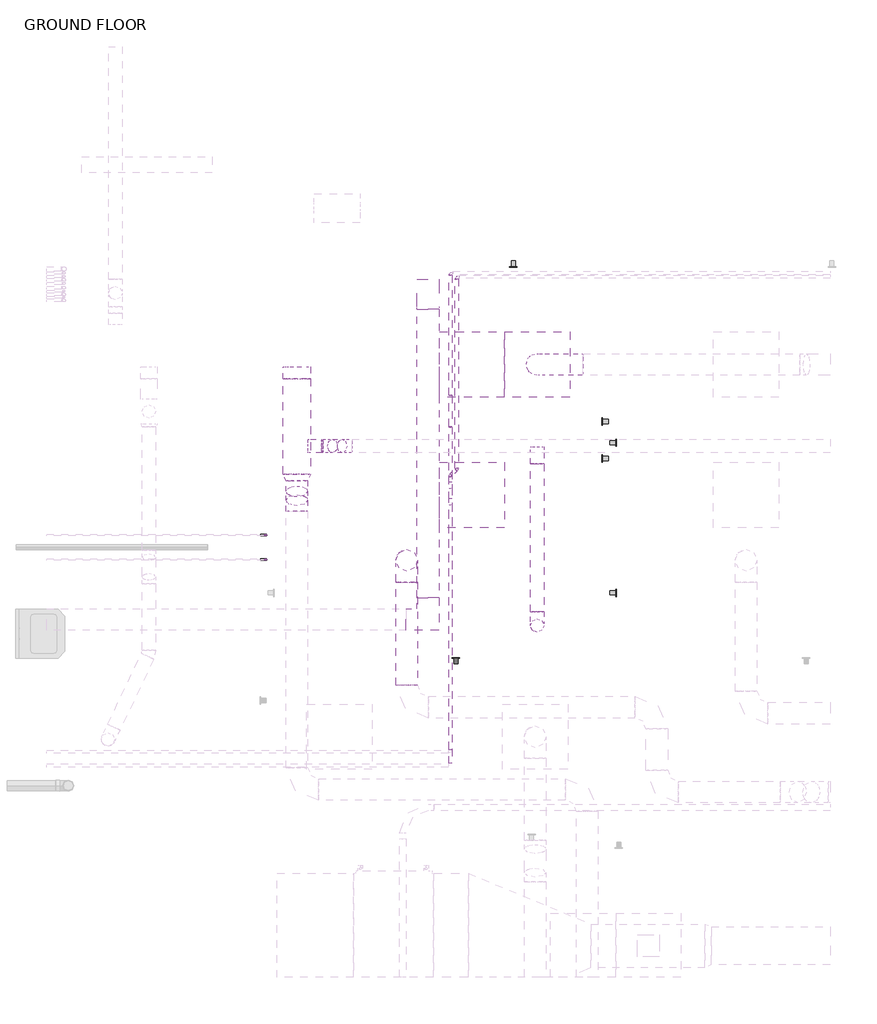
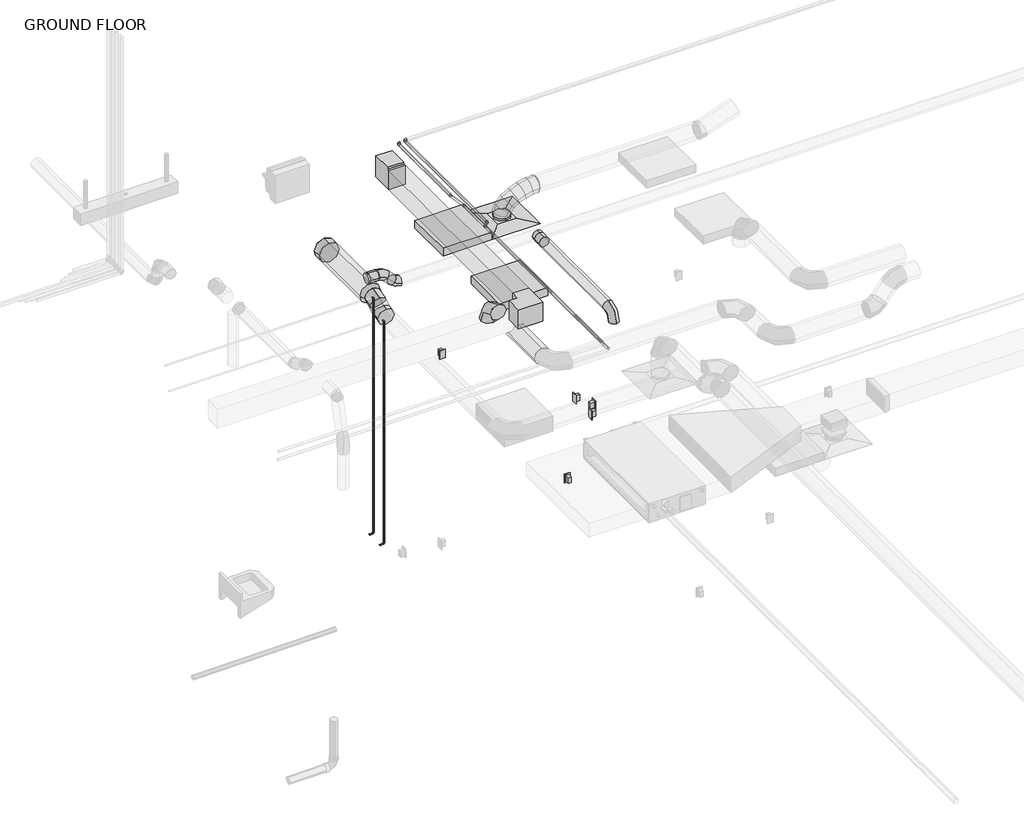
# One storey, part 16 of 22: 12 duct fittings, 12 pipe segments, 10 duct segments, 10 pipe fittings, 3 proxies, 2 electric appliances, 2 light fixtures, 1 air terminal, 1 switching device.
"""IFC4 building model written with IfcOpenShell, lengths in millimetres."""

from ifc_helpers import new_model, si_unit, point, frame, frame_2d, origin, place, context, project, spatial, polyline, circle_curve, ellipse_curve, trimmed, segment, composite_curve, outline, extrude, transform, mapped, element, save
from ifc_brep_helpers import plane_surface, cylinder_surface, advanced_brep
from components import air_terminal_e9020785, duplex_receptacle_countertop_10251bba, rectangular_elbow_mitered_transition_standard_eb9bf791, rectangular_elbow_mitered_standard_f09b78ec, round_elbow_1_d_a253342a, round_elbow_1_d_c80420c1, round_elbow_1_d_20610a6e, round_elbow_1_d_42c0595d, round_takeoff_standard_17dc06e3, round_takeoff_standard_86724b47, round_takeoff_standard_17f2ae85, round_transition_angle_45_degree_605ec02d, telephone_outlet_data_plain_18c24199, troffer_corner_insert_2x2_3lamp_e67c7f8f, elbow_generic_standard_be2ddd46, elbow_generic_standard_1964ee4a, elbow_generic_standard_c06ac706, elbow_generic_standard_a088f956

model = new_model("IFC4")

# Units and contexts
model_context = context("Model", 3, world=origin())
ifc_project = project(units=[si_unit("LENGTHUNIT", "METRE", prefix="MILLI")], contexts=[model_context])

# Site, building, storey
site = spatial("IfcSite", under=ifc_project)
building = spatial("IfcBuilding", under=site)
storey = spatial("IfcBuildingStorey", under=building, Name="GROUND FLOOR", Elevation=30480.0)

# Air terminal
placement = place(None, origin())
air_terminal_shape = air_terminal_e9020785(model_context)
element("IfcAirTerminal", 1, ObjectType="Supply Diffuser - Rectangular Face Round Neck - Hosted : 24\"x24\" Face 8\" Neck - Hosted", at=placement, inside=storey, context=model_context, shape_type="MappedRepresentation", body=[
    mapped(air_terminal_shape, transform((-5009.1954607, 6811.3695005, 33223.2), x_axis=(0.0, -1.0, 0.0), y_axis=(-1.0, 0.0, 0.0), z_axis=(0.0, 0.0, -1.0))),
])

# Proxies
duplex_receptacle_countertop_shape = duplex_receptacle_countertop_10251bba(model_context)
element("IfcBuildingElementProxy", 2, Name="Duplex Receptacle : Countertop", ObjectType="Duplex Receptacle : Countertop", at=placement, inside=storey, context=model_context, shape_type="MappedRepresentation", body=[
    mapped(duplex_receptacle_countertop_shape, transform((-4275.7704607, 4677.7695005, 30937.2), x_axis=(0.0, 1.0, 0.0), y_axis=(0.0, 0.0, 1.0), z_axis=(1.0, 0.0, 0.0))),
])
element("IfcBuildingElementProxy", 3, Name="Duplex Receptacle : Standard", ObjectType="Duplex Receptacle : Standard", at=placement, inside=storey, context=model_context, shape_type="MappedRepresentation", body=[
    mapped(duplex_receptacle_countertop_shape, transform((-5231.5700418, 7725.7695005, 30937.2), x_axis=(-1.0, 0.0, 0.0), y_axis=(0.0, 0.0, -1.0), z_axis=(0.0, -1.0, 0.0))),
])
element("IfcBuildingElementProxy", 4, Name="Duplex Receptacle : Standard", ObjectType="Duplex Receptacle : Standard", at=placement, inside=storey, context=model_context, shape_type="MappedRepresentation", body=[
    mapped(duplex_receptacle_countertop_shape, transform((-4399.5954607, 6279.0494659, 30937.2), x_axis=(0.0, -1.0, 0.0), y_axis=(0.0, 0.0, 1.0), z_axis=(-1.0, 0.0, 0.0))),
])

# Duct fittings
rectangular_elbow_mitered_transition_standard_shape = rectangular_elbow_mitered_transition_standard_eb9bf791(model_context)
element("IfcDuctFitting", 5, ObjectType="Rectangular Elbow - Mitered - Transition : Standard", at=placement, inside=storey, context=model_context, shape_type="MappedRepresentation", body=[
    mapped(rectangular_elbow_mitered_transition_standard_shape, transform((-6029.8204015, 4430.1195005, 33807.4), x_axis=(1.0, 0.0, 0.0), y_axis=(0.0, 1.0, 0.0), z_axis=(0.0, 0.0, 1.0))),
])
rectangular_elbow_mitered_standard_shape = rectangular_elbow_mitered_standard_f09b78ec(model_context)
element("IfcDuctFitting", 6, ObjectType="Rectangular Elbow - Mitered : Standard", at=placement, inside=storey, context=model_context, shape_type="MappedRepresentation", body=[
    mapped(rectangular_elbow_mitered_standard_shape, transform((-6029.8204015, 7478.1195005, 33807.4), x_axis=(0.0, 1.0, 0.0), y_axis=(0.0, 0.0, 1.0), z_axis=(1.0, 0.0, 0.0))),
])
round_elbow_1_d_shape = round_elbow_1_d_a253342a(model_context)
element("IfcDuctFitting", 7, ObjectType="Round Elbow : 1 D", at=placement, inside=storey, context=model_context, shape_type="MappedRepresentation", body=[
    mapped(round_elbow_1_d_shape, transform((-6228.3954607, 4982.5695005, 33629.6), x_axis=(0.0, 0.0, 1.0), y_axis=(0.0, -1.0, 0.0), z_axis=(1.0, 0.0, 0.0))),
])
round_elbow_1_d_2_shape = round_elbow_1_d_c80420c1(model_context)
element("IfcDuctFitting", 8, ObjectType="Round Elbow : 1 D", at=placement, inside=storey, context=model_context, shape_type="MappedRepresentation", body=[
    mapped(round_elbow_1_d_2_shape, transform((-5009.1954607, 4372.9695005, 33464.5), x_axis=(0.0, -1.0, 0.0), y_axis=(0.0, 0.0, -1.0), z_axis=(1.0, 0.0, 0.0))),
])
round_elbow_1_d_3_shape = round_elbow_1_d_20610a6e(model_context)
element("IfcDuctFitting", 9, ObjectType="Round Elbow : 1 D", at=placement, inside=storey, context=model_context, shape_type="MappedRepresentation", body=[
    mapped(round_elbow_1_d_3_shape, transform((-7253.9204607, 5672.1243299, 33629.6), x_axis=(0.0, -1.0, 0.0), y_axis=(0.0, 0.0, -1.0), z_axis=(1.0, 0.0, 0.0))),
])
element("IfcDuctFitting", 10, ObjectType="Round Elbow : 1 D", at=placement, inside=storey, context=model_context, shape_type="MappedRepresentation", body=[
    mapped(round_elbow_1_d_3_shape, transform((-7253.9204607, 5496.1479679, 33528.0), x_axis=(0.0, -0.8660254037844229, -0.5000000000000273), y_axis=(0.0, -0.5000000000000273, 0.8660254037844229), z_axis=(-1.0, 0.0, 0.0))),
])
round_elbow_1_d_4_shape = round_elbow_1_d_42c0595d(model_context)
element("IfcDuctFitting", 11, ObjectType="Round Elbow : 1 D", at=placement, inside=storey, context=model_context, shape_type="MappedRepresentation", body=[
    mapped(round_elbow_1_d_4_shape, transform((-6958.932468, 6049.3695005, 33629.6), x_axis=(1.0, 0.0, 0.0), y_axis=(0.0, 0.0, -1.0), z_axis=(0.0, 1.0, 0.0))),
])
element("IfcDuctFitting", 12, ObjectType="Round Elbow : 1 D", at=placement, inside=storey, context=model_context, shape_type="MappedRepresentation", body=[
    mapped(round_elbow_1_d_4_shape, transform((-6793.8326712, 6049.3695005, 33464.5), x_axis=(0.707106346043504, 0.0, -0.7071072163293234), y_axis=(0.7071072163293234, 0.0, 0.707106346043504), z_axis=(0.0, -1.0, 0.0))),
])
round_takeoff_standard_shape = round_takeoff_standard_17dc06e3(model_context)
element("IfcDuctFitting", 13, ObjectType="Round Takeoff : Standard", at=placement, inside=storey, context=model_context, shape_type="MappedRepresentation", body=[
    mapped(round_takeoff_standard_shape, transform((-5009.1954607, 5985.8695005, 33464.5), x_axis=(0.0, -1.0, 0.0), y_axis=(-1.0, 0.0, 0.0), z_axis=(0.0, 0.0, -1.0))),
])
round_takeoff_standard_2_shape = round_takeoff_standard_86724b47(model_context)
element("IfcDuctFitting", 14, ObjectType="Round Takeoff : Standard", at=placement, inside=storey, context=model_context, shape_type="MappedRepresentation", body=[
    mapped(round_takeoff_standard_2_shape, transform((-7253.9204607, 6781.4293332, 33629.6), x_axis=(0.0, -1.0, 0.0), y_axis=(-1.0, 0.0, 0.0), z_axis=(0.0, 0.0, -1.0))),
])
round_takeoff_standard_3_shape = round_takeoff_standard_17f2ae85(model_context)
element("IfcDuctFitting", 15, ObjectType="Round Takeoff : Standard", at=placement, inside=storey, context=model_context, shape_type="MappedRepresentation", body=[
    mapped(round_takeoff_standard_3_shape, transform((-7126.9204607, 6049.3695005, 33629.6), x_axis=(1.0, 0.0, 0.0), y_axis=(0.0, 1.0, 0.0), z_axis=(0.0, 0.0, 1.0))),
])
round_transition_angle_45_degree_shape = round_transition_angle_45_degree_605ec02d(model_context)
element("IfcDuctFitting", 16, ObjectType="Round Transition - Angle : 45 Degree", at=placement, inside=storey, context=model_context, shape_type="MappedRepresentation", body=[
    mapped(round_transition_angle_45_degree_shape, transform((-7253.9204607, 5726.5716058, 33629.6), x_axis=(0.0, 1.0, 0.0), y_axis=(-1.0, 0.0, 0.0), z_axis=(0.0, 0.0, 1.0))),
])

# Duct segments
element("IfcDuctSegment", 17, ObjectType="Flex - Round", at=placement, inside=storey, context=model_context, shape_type="AdvancedBrep", body=[
    advanced_brep(
    [(-4580.7431384, 6709.7695005, 33528.0), (-4580.7431384, 6811.3695005, 33426.4), (-4580.7431384, 6912.9695005, 33528.0), (-4580.7431384, 6811.3695005, 33629.6), (-4588.790283, 6709.7695005, 33528.0), (-4584.3622178, 6811.3695005, 33426.4), (-4588.790283, 6912.9695005, 33528.0), (-4593.2183481, 6811.3695005, 33629.6), (-5009.1954607, 6709.7695005, 33277.175), (-5110.7954607, 6811.3695005, 33277.175), (-5009.1954607, 6912.9695005, 33277.175), (-4907.5954607, 6811.3695005, 33277.175), (-4669.9423992, 6709.7695005, 33520.9127807), (-4654.4566913, 6811.3695005, 33420.2784726), (-4669.9423992, 6912.9695005, 33520.9127807), (-4685.4281072, 6811.3695005, 33621.5470889), (-4765.3747964, 6709.7695005, 33499.7470094), (-4736.047964, 6811.3695005, 33402.1824982), (-4765.3747964, 6912.9695005, 33499.7470094), (-4794.7016287, 6811.3695005, 33597.3115207), (-4857.0283155, 6709.7695005, 33464.6465159), (-4811.4139874, 6811.3695005, 33373.3196172), (-4857.0283155, 6912.9695005, 33464.6465159), (-4902.6426435, 6811.3695005, 33555.9734146), (-4934.8909421, 6709.7695005, 33415.75513), (-4867.9774847, 6811.3695005, 33337.8023492), (-4934.8909421, 6912.9695005, 33415.75513), (-5001.8043995, 6811.3695005, 33493.7079107), (-4988.950662, 6709.7695005, 33353.2166814), (-4901.1121467, 6811.3695005, 33299.4708454), (-4988.950662, 6912.9695005, 33353.2166814), (-5076.7891773, 6811.3695005, 33406.9625174), (-5009.1954607, 6709.7695005, 33303.3137649), (-4907.5954607, 6811.3695005, 33283.4896405), (-5009.1954607, 6912.9695005, 33303.3137649), (-5110.7954607, 6811.3695005, 33323.1378893)],
    [
        (0, 1, circle_curve(frame((-4580.7431384, 6811.3695005, 33528.0), z_axis=(1.0, 0.0, 0.0), x_axis=(0.0, -1.0, 0.0)), 101.6)),
        (1, 2, circle_curve(frame((-4580.7431384, 6811.3695005, 33528.0), z_axis=(1.0, 0.0, 0.0), x_axis=(0.0, -1.0, 0.0)), 101.6)),
        (2, 3, circle_curve(frame((-4580.7431384, 6811.3695005, 33528.0), z_axis=(1.0, 0.0, 0.0), x_axis=(0.0, -1.0, 0.0)), 101.6)),
        (3, 0, circle_curve(frame((-4580.7431384, 6811.3695005, 33528.0), z_axis=(1.0, 0.0, 0.0), x_axis=(0.0, -1.0, 0.0)), 101.6)),
        (0, 4),
        (4, 5, ellipse_curve(frame((-4588.790283, 6811.3695005, 33528.0), z_axis=(0.9990515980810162, 0.0, 0.043541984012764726), x_axis=(0.043541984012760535, 0.0, -0.9990515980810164)), 101.6964491, 101.6)),
        (5, 1),
        (5, 6, ellipse_curve(frame((-4588.790283, 6811.3695005, 33528.0), z_axis=(0.9990515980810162, 0.0, 0.043541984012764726), x_axis=(0.043541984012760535, 0.0, -0.9990515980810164)), 101.6964491, 101.6)),
        (6, 2),
        (6, 7, ellipse_curve(frame((-4588.790283, 6811.3695005, 33528.0), z_axis=(0.9990515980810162, 0.0, 0.043541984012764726), x_axis=(0.043541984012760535, 0.0, -0.9990515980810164)), 101.6964491, 101.6)),
        (7, 3),
        (7, 4, ellipse_curve(frame((-4588.790283, 6811.3695005, 33528.0), z_axis=(0.9990515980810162, 0.0, 0.043541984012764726), x_axis=(0.043541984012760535, 0.0, -0.9990515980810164)), 101.6964491, 101.6)),
        (8, 9, circle_curve(frame((-5009.1954607, 6811.3695005, 33277.175), z_axis=(0.0, 0.0, -1.0), x_axis=(0.0, -1.0, 0.0)), 101.6)),
        (9, 10, circle_curve(frame((-5009.1954607, 6811.3695005, 33277.175), z_axis=(0.0, 0.0, -1.0), x_axis=(0.0, -1.0, 0.0)), 101.6)),
        (10, 11, circle_curve(frame((-5009.1954607, 6811.3695005, 33277.175), z_axis=(0.0, 0.0, -1.0), x_axis=(0.0, -1.0, 0.0)), 101.6)),
        (11, 8, circle_curve(frame((-5009.1954607, 6811.3695005, 33277.175), z_axis=(0.0, 0.0, -1.0), x_axis=(0.0, -1.0, 0.0)), 101.6)),
        (4, 12),
        (12, 13, ellipse_curve(frame((-4669.9423992, 6811.3695005, 33520.9127807), z_axis=(0.9883665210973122, 0.0, 0.15209082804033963), x_axis=(0.15209082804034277, 0.0, -0.9883665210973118)), 101.8188152, 101.6)),
        (13, 5),
        (13, 14, ellipse_curve(frame((-4669.9423992, 6811.3695005, 33520.9127807), z_axis=(0.9883665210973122, 0.0, 0.15209082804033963), x_axis=(0.15209082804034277, 0.0, -0.9883665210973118)), 101.8188152, 101.6)),
        (14, 6),
        (14, 15, ellipse_curve(frame((-4669.9423992, 6811.3695005, 33520.9127807), z_axis=(0.9883665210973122, 0.0, 0.15209082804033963), x_axis=(0.15209082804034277, 0.0, -0.9883665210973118)), 101.8188152, 101.6)),
        (15, 7),
        (15, 12, ellipse_curve(frame((-4669.9423992, 6811.3695005, 33520.9127807), z_axis=(0.9883665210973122, 0.0, 0.15209082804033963), x_axis=(0.15209082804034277, 0.0, -0.9883665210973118)), 101.8188152, 101.6)),
        (12, 16),
        (16, 17, ellipse_curve(frame((-4765.3747964, 6811.3695005, 33499.7470094), z_axis=(0.9576708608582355, 0.0, 0.2878654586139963), x_axis=(0.2878654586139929, 0.0, -0.9576708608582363)), 101.8768715, 101.6)),
        (17, 13),
        (17, 18, ellipse_curve(frame((-4765.3747964, 6811.3695005, 33499.7470094), z_axis=(0.9576708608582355, 0.0, 0.2878654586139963), x_axis=(0.2878654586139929, 0.0, -0.9576708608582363)), 101.8768715, 101.6)),
        (18, 14),
        (18, 19, ellipse_curve(frame((-4765.3747964, 6811.3695005, 33499.7470094), z_axis=(0.9576708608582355, 0.0, 0.2878654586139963), x_axis=(0.2878654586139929, 0.0, -0.9576708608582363)), 101.8768715, 101.6)),
        (19, 15),
        (19, 16, ellipse_curve(frame((-4765.3747964, 6811.3695005, 33499.7470094), z_axis=(0.9576708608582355, 0.0, 0.2878654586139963), x_axis=(0.2878654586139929, 0.0, -0.9576708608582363)), 101.8768715, 101.6)),
        (16, 20),
        (20, 21, ellipse_curve(frame((-4857.0283155, 6811.3695005, 33464.6465159), z_axis=(0.8946195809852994, 0.0, 0.4468286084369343), x_axis=(0.44682860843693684, 0.0, -0.8946195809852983)), 102.0846186, 101.6)),
        (21, 17),
        (21, 22, ellipse_curve(frame((-4857.0283155, 6811.3695005, 33464.6465159), z_axis=(0.8946195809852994, 0.0, 0.4468286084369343), x_axis=(0.44682860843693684, 0.0, -0.8946195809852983)), 102.0846186, 101.6)),
        (22, 18),
        (22, 23, ellipse_curve(frame((-4857.0283155, 6811.3695005, 33464.6465159), z_axis=(0.8946195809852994, 0.0, 0.4468286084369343), x_axis=(0.44682860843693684, 0.0, -0.8946195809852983)), 102.0846186, 101.6)),
        (23, 19),
        (23, 20, ellipse_curve(frame((-4857.0283155, 6811.3695005, 33464.6465159), z_axis=(0.8946195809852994, 0.0, 0.4468286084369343), x_axis=(0.44682860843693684, 0.0, -0.8946195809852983)), 102.0846186, 101.6)),
        (20, 24),
        (24, 25, ellipse_curve(frame((-4934.8909421, 6811.3695005, 33415.75513), z_axis=(0.7587908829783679, 0.0, 0.6513343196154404), x_axis=(0.6513343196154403, 0.0, -0.758790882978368)), 102.7328906, 101.6)),
        (25, 21),
        (25, 26, ellipse_curve(frame((-4934.8909421, 6811.3695005, 33415.75513), z_axis=(0.7587908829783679, 0.0, 0.6513343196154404), x_axis=(0.6513343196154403, 0.0, -0.758790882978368)), 102.7328906, 101.6)),
        (26, 22),
        (26, 27, ellipse_curve(frame((-4934.8909421, 6811.3695005, 33415.75513), z_axis=(0.7587908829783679, 0.0, 0.6513343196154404), x_axis=(0.6513343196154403, 0.0, -0.758790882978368)), 102.7328906, 101.6)),
        (27, 23),
        (27, 24, ellipse_curve(frame((-4934.8909421, 6811.3695005, 33415.75513), z_axis=(0.7587908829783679, 0.0, 0.6513343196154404), x_axis=(0.6513343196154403, 0.0, -0.758790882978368)), 102.7328906, 101.6)),
        (24, 28),
        (28, 29, ellipse_curve(frame((-4988.950662, 6811.3695005, 33353.2166814), z_axis=(0.5219218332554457, 0.0, 0.852993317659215), x_axis=(0.8529933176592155, 0.0, -0.521921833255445)), 102.9767918, 101.6)),
        (29, 25),
        (29, 30, ellipse_curve(frame((-4988.950662, 6811.3695005, 33353.2166814), z_axis=(0.5219218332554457, 0.0, 0.852993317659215), x_axis=(0.8529933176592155, 0.0, -0.521921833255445)), 102.9767918, 101.6)),
        (30, 26),
        (30, 31, ellipse_curve(frame((-4988.950662, 6811.3695005, 33353.2166814), z_axis=(0.5219218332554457, 0.0, 0.852993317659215), x_axis=(0.8529933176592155, 0.0, -0.521921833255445)), 102.9767918, 101.6)),
        (31, 27),
        (31, 28, ellipse_curve(frame((-4988.950662, 6811.3695005, 33353.2166814), z_axis=(0.5219218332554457, 0.0, 0.852993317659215), x_axis=(0.8529933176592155, 0.0, -0.521921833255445)), 102.9767918, 101.6)),
        (28, 32),
        (32, 33, ellipse_curve(frame((-5009.1954607, 6811.3695005, 33303.3137649), z_axis=(0.1915078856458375, 0.0, 0.9814910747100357), x_axis=(0.9814910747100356, 0.0, -0.1915078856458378)), 103.5159693, 101.6)),
        (33, 29),
        (33, 34, ellipse_curve(frame((-5009.1954607, 6811.3695005, 33303.3137649), z_axis=(0.1915078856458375, 0.0, 0.9814910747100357), x_axis=(0.9814910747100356, 0.0, -0.1915078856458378)), 103.5159693, 101.6)),
        (34, 30),
        (34, 35, ellipse_curve(frame((-5009.1954607, 6811.3695005, 33303.3137649), z_axis=(0.1915078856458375, 0.0, 0.9814910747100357), x_axis=(0.9814910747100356, 0.0, -0.1915078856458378)), 103.5159693, 101.6)),
        (35, 31),
        (35, 32, ellipse_curve(frame((-5009.1954607, 6811.3695005, 33303.3137649), z_axis=(0.1915078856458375, 0.0, 0.9814910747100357), x_axis=(0.9814910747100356, 0.0, -0.1915078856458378)), 103.5159693, 101.6)),
        (32, 8),
        (11, 33),
        (10, 34),
        (9, 35),
    ],
    [
        plane_surface(frame((-4580.7431384, 6811.3695005, 33426.4), z_axis=(1.0, 0.0, 0.0), x_axis=(0.0, -1.0, 0.0))),
        cylinder_surface(frame((-4580.7431384, 6811.3695005, 33528.0), z_axis=(1.0, 0.0, 0.0), x_axis=(0.0, -1.0, 0.0)), 101.6),
        plane_surface(frame((-5009.1954607, 6709.7695005, 33277.175), z_axis=(0.0, 0.0, -1.0), x_axis=(-1.0, 0.0, 0.0))),
        cylinder_surface(frame((-4588.790283, 6811.3695005, 33528.0), z_axis=(0.9962081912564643, 0.0, 0.0870013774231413), x_axis=(0.0, -1.0, 0.0)), 101.6),
        cylinder_surface(frame((-4669.9423992, 6811.3695005, 33520.9127807), z_axis=(0.9762767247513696, 0.0, 0.2165265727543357), x_axis=(0.0, -1.0, 0.0)), 101.6),
        cylinder_surface(frame((-4765.3747964, 6811.3695005, 33499.7470094), z_axis=(0.9338596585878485, 0.0, 0.3576396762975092), x_axis=(0.0, -1.0, 0.0)), 101.6),
        cylinder_surface(frame((-4857.0283155, 6811.3695005, 33464.6465159), z_axis=(0.8468855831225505, 0.0, 0.5317751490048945), x_axis=(0.0, -1.0, 0.0)), 101.6),
        cylinder_surface(frame((-4934.8909421, 6811.3695005, 33415.75513), z_axis=(0.653960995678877, 0.0, 0.7565282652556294), x_axis=(0.0, -1.0, 0.0)), 101.6),
        cylinder_surface(frame((-4988.950662, 6811.3695005, 33353.2166814), z_axis=(0.3759265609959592, 0.0, 0.9266494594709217), x_axis=(0.0, -1.0, 0.0)), 101.6),
        cylinder_surface(frame((-5009.1954607, 6811.3695005, 33303.3137649), z_axis=(0.0, 0.0, 1.0), x_axis=(0.0, -1.0, 0.0)), 101.6),
    ],
    [
        (0, [[1, 2, 3, 4]]),
        (1, [[-1, 5, 6, 7]]),
        (1, [[-2, -7, 8, 9]]),
        (1, [[-3, -9, 10, 11]]),
        (1, [[-4, -11, 12, -5]]),
        (2, [[13, 14, 15, 16]]),
        (3, [[-6, 17, 18, 19]]),
        (3, [[-8, -19, 20, 21]]),
        (3, [[-10, -21, 22, 23]]),
        (3, [[-12, -23, 24, -17]]),
        (4, [[-18, 25, 26, 27]]),
        (4, [[-20, -27, 28, 29]]),
        (4, [[-22, -29, 30, 31]]),
        (4, [[-24, -31, 32, -25]]),
        (5, [[-26, 33, 34, 35]]),
        (5, [[-28, -35, 36, 37]]),
        (5, [[-30, -37, 38, 39]]),
        (5, [[-32, -39, 40, -33]]),
        (6, [[-34, 41, 42, 43]]),
        (6, [[-36, -43, 44, 45]]),
        (6, [[-38, -45, 46, 47]]),
        (6, [[-40, -47, 48, -41]]),
        (7, [[-42, 49, 50, 51]]),
        (7, [[-44, -51, 52, 53]]),
        (7, [[-46, -53, 54, 55]]),
        (7, [[-48, -55, 56, -49]]),
        (8, [[-50, 57, 58, 59]]),
        (8, [[-52, -59, 60, 61]]),
        (8, [[-54, -61, 62, 63]]),
        (8, [[-56, -63, 64, -57]]),
        (9, [[-58, 65, -16, 66]]),
        (9, [[-60, -66, -15, 67]]),
        (9, [[-62, -67, -14, 68]]),
        (9, [[-64, -68, -13, -65]]),
    ],
),
])
element("IfcDuctSegment", 18, ObjectType="Mitered Elbows / Tees", at=placement, inside=storey, context=model_context, shape_type="SweptSolid", body=[
    extrude(outline(polyline([(-6131.4204015, 7325.7195005), (-5928.2204015, 7325.7195005), (-5928.2204015, 4633.3195005), (-6131.4204015, 4633.3195005), (-6131.4204015, 7325.7195005)])), frame((0.0, 0.0, 33680.4), z_axis=(0.0, 0.0, 1.0), x_axis=(1.0, 0.0, 0.0)), (0.0, 0.0, 1.0), 254.0),
])
element("IfcDuctSegment", 19, ObjectType="Taps / Short Radius", at=placement, inside=storey, context=model_context, shape_type="SweptSolid", body=[
    extrude(outline(composite_curve([segment(trimmed(circle_curve(frame_2d((33629.6, -6228.3954607)), 101.6), [point((33629.6, -6329.9954607))], [point((33528.0, -6228.3954607))], False, "CARTESIAN"), True, "CONTINUOUS"), segment(trimmed(circle_curve(frame_2d((33629.6, -6228.3954607)), 101.6), [point((33528.0, -6228.3954607))], [point((33629.6, -6126.7954607))], False, "CARTESIAN"), True, "CONTINUOUS"), segment(trimmed(circle_curve(frame_2d((33629.6, -6228.3954607)), 101.6), [point((33629.6, -6126.7954607))], [point((33731.2, -6228.3954607))], False, "CARTESIAN"), True, "CONTINUOUS"), segment(trimmed(circle_curve(frame_2d((33629.6, -6228.3954607)), 101.6), [point((33731.2, -6228.3954607))], [point((33629.6, -6329.9954607))], False, "CARTESIAN"), True, "CONTINUOUS")], self_intersect=False)), frame((0.0, 3814.1695005, 0.0), z_axis=(0.0, 1.0, 0.0), x_axis=(0.0, 0.0, 1.0)), (0.0, 0.0, 1.0), 965.2),
])
element("IfcDuctSegment", 20, ObjectType="Taps / Short Radius", at=placement, inside=storey, context=model_context, shape_type="SweptSolid", body=[
    extrude(outline(composite_curve([segment(trimmed(circle_curve(frame_2d((-6228.3954607, 4982.5695005)), 101.6), [point((-6228.3954607, 5084.1695005))], [point((-6126.7954607, 4982.5695005))], False, "CARTESIAN"), True, "CONTINUOUS"), segment(trimmed(circle_curve(frame_2d((-6228.3954607, 4982.5695005)), 101.6), [point((-6126.7954607, 4982.5695005))], [point((-6228.3954607, 4880.9695005))], False, "CARTESIAN"), True, "CONTINUOUS"), segment(trimmed(circle_curve(frame_2d((-6228.3954607, 4982.5695005)), 101.6), [point((-6228.3954607, 4880.9695005))], [point((-6329.9954607, 4982.5695005))], False, "CARTESIAN"), True, "CONTINUOUS"), segment(trimmed(circle_curve(frame_2d((-6228.3954607, 4982.5695005)), 101.6), [point((-6329.9954607, 4982.5695005))], [point((-6228.3954607, 5084.1695005))], False, "CARTESIAN"), True, "CONTINUOUS")], self_intersect=False)), frame((0.0, 0.0, 33324.8), z_axis=(0.0, 0.0, 1.0), x_axis=(1.0, 0.0, 0.0)), (0.0, 0.0, 1.0), 101.6),
])
element("IfcDuctSegment", 21, ObjectType="Taps / Short Radius", at=placement, inside=storey, context=model_context, shape_type="SweptSolid", body=[
    extrude(outline(composite_curve([segment(trimmed(circle_curve(frame_2d((0.0, 63.5)), 63.5), [point((-63.5, 63.5))], [point((0.0, 127.0))], False, "CARTESIAN"), True, "CONTINUOUS"), segment(trimmed(circle_curve(frame_2d((0.0, 63.5)), 63.5), [point((0.0, 127.0))], [point((63.5, 63.5))], False, "CARTESIAN"), True, "CONTINUOUS"), segment(trimmed(circle_curve(frame_2d((0.0, 63.5)), 63.5), [point((63.5, 63.5))], [point((0.0, 0.0))], False, "CARTESIAN"), True, "CONTINUOUS"), segment(trimmed(circle_curve(frame_2d((0.0, 63.5)), 63.5), [point((0.0, 0.0))], [point((-63.5, 63.5))], False, "CARTESIAN"), True, "CONTINUOUS")], self_intersect=False)), frame((-5009.1954607, 4309.4695005, 33324.8), z_axis=(0.0, -1.023181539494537e-12, 1.0), x_axis=(1.0, 0.0, 0.0)), (0.0, 0.0, 1.0), 12.7),
])
element("IfcDuctSegment", 22, ObjectType="Taps / Short Radius", at=placement, inside=storey, context=model_context, shape_type="SweptSolid", body=[
    extrude(outline(composite_curve([segment(trimmed(circle_curve(frame_2d((33464.5, -5009.1954607)), 63.5), [point((33464.5, -5072.6954607))], [point((33401.0, -5009.1954607))], False, "CARTESIAN"), True, "CONTINUOUS"), segment(trimmed(circle_curve(frame_2d((33464.5, -5009.1954607)), 63.5), [point((33401.0, -5009.1954607))], [point((33464.5, -4945.6954607))], False, "CARTESIAN"), True, "CONTINUOUS"), segment(trimmed(circle_curve(frame_2d((33464.5, -5009.1954607)), 63.5), [point((33464.5, -4945.6954607))], [point((33528.0, -5009.1954607))], False, "CARTESIAN"), True, "CONTINUOUS"), segment(trimmed(circle_curve(frame_2d((33464.5, -5009.1954607)), 63.5), [point((33528.0, -5009.1954607))], [point((33464.5, -5072.6954607))], False, "CARTESIAN"), True, "CONTINUOUS")], self_intersect=False)), frame((0.0, 4499.9695005, 0.0), z_axis=(0.0, 1.0, 0.0), x_axis=(0.0, 0.0, 1.0)), (0.0, 0.0, 1.0), 1384.3),
])
element("IfcDuctSegment", 23, ObjectType="Taps / Short Radius", at=placement, inside=storey, context=model_context, shape_type="SweptSolid", body=[
    extrude(outline(composite_curve([segment(trimmed(circle_curve(frame_2d((33629.6, -7253.9204607)), 127.0), [point((33629.6, -7380.9204607))], [point((33502.6, -7253.9204607))], False, "CARTESIAN"), True, "CONTINUOUS"), segment(trimmed(circle_curve(frame_2d((33629.6, -7253.9204607)), 127.0), [point((33502.6, -7253.9204607))], [point((33629.6, -7126.9204607))], False, "CARTESIAN"), True, "CONTINUOUS"), segment(trimmed(circle_curve(frame_2d((33629.6, -7253.9204607)), 127.0), [point((33629.6, -7126.9204607))], [point((33756.6, -7253.9204607))], False, "CARTESIAN"), True, "CONTINUOUS"), segment(trimmed(circle_curve(frame_2d((33629.6, -7253.9204607)), 127.0), [point((33756.6, -7253.9204607))], [point((33629.6, -7380.9204607))], False, "CARTESIAN"), True, "CONTINUOUS")], self_intersect=False)), frame((0.0, 5787.8926303, 0.0), z_axis=(0.0, 1.0, 0.0), x_axis=(0.0, 0.0, 1.0)), (0.0, 0.0, 1.0), 891.9367029),
])
element("IfcDuctSegment", 24, ObjectType="Taps / Short Radius", at=placement, inside=storey, context=model_context, shape_type="SweptSolid", body=[
    extrude(outline(composite_curve([segment(trimmed(circle_curve(frame_2d((0.0, -101.6000001)), 101.6), [point((-101.6, -101.6000001))], [point((0.0, 0.0))], False, "CARTESIAN"), True, "CONTINUOUS"), segment(trimmed(circle_curve(frame_2d((0.0, -101.6000001)), 101.6), [point((0.0, 0.0))], [point((101.6, -101.6000001))], False, "CARTESIAN"), True, "CONTINUOUS"), segment(trimmed(circle_curve(frame_2d((0.0, -101.6000001)), 101.6), [point((101.6, -101.6000001))], [point((0.0, -203.2))], False, "CARTESIAN"), True, "CONTINUOUS"), segment(trimmed(circle_curve(frame_2d((0.0, -101.6000001)), 101.6), [point((0.0, -203.2))], [point((-101.6, -101.6000001))], False, "CARTESIAN"), True, "CONTINUOUS")], self_intersect=False)), frame((-7253.9204607, 5594.100692, 33467.2354569), z_axis=(0.0, 0.8660254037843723, 0.5000000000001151), x_axis=(1.0, 0.0, 0.0)), (0.0, 0.0, 1.0), 94.3054482),
])
element("IfcDuctSegment", 25, ObjectType="Taps / Short Radius", at=placement, inside=storey, context=model_context, shape_type="SweptSolid", body=[
    extrude(outline(composite_curve([segment(trimmed(circle_curve(frame_2d((6049.3695005, 33629.6)), 63.5), [point((5985.8695005, 33629.6))], [point((6049.3695005, 33693.1))], False, "CARTESIAN"), True, "CONTINUOUS"), segment(trimmed(circle_curve(frame_2d((6049.3695005, 33629.6)), 63.5), [point((6049.3695005, 33693.1))], [point((6112.8695005, 33629.6))], False, "CARTESIAN"), True, "CONTINUOUS"), segment(trimmed(circle_curve(frame_2d((6049.3695005, 33629.6)), 63.5), [point((6112.8695005, 33629.6))], [point((6049.3695005, 33566.1))], False, "CARTESIAN"), True, "CONTINUOUS"), segment(trimmed(circle_curve(frame_2d((6049.3695005, 33629.6)), 63.5), [point((6049.3695005, 33566.1))], [point((5985.8695005, 33629.6))], False, "CARTESIAN"), True, "CONTINUOUS")], self_intersect=False)), frame((-7025.3204607, 0.0, 0.0), z_axis=(1.0, 0.0, 0.0), x_axis=(0.0, 1.0, 0.0)), (0.0, 0.0, 1.0), 13.7828245),
])
element("IfcDuctSegment", 26, ObjectType="Taps / Short Radius", at=placement, inside=storey, context=model_context, shape_type="SweptSolid", body=[
    extrude(outline(composite_curve([segment(trimmed(circle_curve(frame_2d((0.0, -63.5)), 63.5), [point((0.0, -127.0))], [point((-63.5, -63.5))], False, "CARTESIAN"), True, "CONTINUOUS"), segment(trimmed(circle_curve(frame_2d((0.0, -63.5)), 63.5), [point((-63.5, -63.5))], [point((0.0, 0.0))], False, "CARTESIAN"), True, "CONTINUOUS"), segment(trimmed(circle_curve(frame_2d((0.0, -63.5)), 63.5), [point((0.0, 0.0))], [point((63.4999999, -63.5))], False, "CARTESIAN"), True, "CONTINUOUS"), segment(trimmed(circle_curve(frame_2d((0.0, -63.5)), 63.5), [point((63.4999999, -63.5))], [point((0.0, -127.0))], False, "CARTESIAN"), True, "CONTINUOUS")], self_intersect=False)), frame((-6831.0301195, 6112.8695005, 33501.6974941), z_axis=(-0.7071063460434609, 0.0, 0.7071072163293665), x_axis=(0.7071072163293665, 0.0, 0.7071063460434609)), (0.0, 0.0, 1.0), 128.2761791),
])

# Electric appliances
telephone_outlet_data_plain_shape = telephone_outlet_data_plain_18c24199(model_context)
element("IfcElectricAppliance", 27, ObjectType="Telephone Outlet - Data : Plain", at=placement, inside=storey, context=model_context, shape_type="MappedRepresentation", body=[
    mapped(telephone_outlet_data_plain_shape, transform((-4275.7704607, 6959.7549645, 30079.95), x_axis=(0.0, 1.0, 0.0), y_axis=(0.0, 0.0, 1.0), z_axis=(1.0, 0.0, 0.0))),
])
element("IfcElectricAppliance", 28, ObjectType="Telephone Outlet - Data : Plain", at=placement, inside=storey, context=model_context, shape_type="MappedRepresentation", body=[
    mapped(telephone_outlet_data_plain_shape, transform((-4399.5954607, 5053.4380898, 30079.95), x_axis=(0.0, -1.0, 0.0), y_axis=(0.0, 0.0, 1.0), z_axis=(-1.0, 0.0, 0.0))),
])

# Light fixtures
troffer_corner_insert_2x2_3lamp_shape = troffer_corner_insert_2x2_3lamp_e67c7f8f(model_context)
element("IfcLightFixture", 29, ObjectType="Troffer Corner Insert : 2x2 3Lamp", at=placement, inside=storey, context=model_context, shape_type="MappedRepresentation", body=[
    mapped(troffer_corner_insert_2x2_3lamp_shape, transform((-5618.7954607, 6811.3695005, 30784.8), x_axis=(1.0, 0.0, 0.0), y_axis=(0.0, 1.0, 0.0), z_axis=(0.0, 0.0, 1.0))),
])
element("IfcLightFixture", 30, ObjectType="Troffer Corner Insert : 2x2 3Lamp", at=placement, inside=storey, context=model_context, shape_type="MappedRepresentation", body=[
    mapped(troffer_corner_insert_2x2_3lamp_shape, transform((-5618.7954607, 5592.1695005, 30784.8), x_axis=(1.0, 0.0, 0.0), y_axis=(0.0, 1.0, 0.0), z_axis=(0.0, 0.0, 1.0))),
])

# Pipe fittings
elbow_generic_standard_shape = elbow_generic_standard_be2ddd46(model_context)
element("IfcPipeFitting", 31, ObjectType="Elbow - Generic : Standard", at=placement, inside=storey, context=model_context, shape_type="MappedRepresentation", body=[
    mapped(elbow_generic_standard_shape, transform((-5818.8204607, 6228.3718518, 34023.3), x_axis=(0.0, 1.0, 0.0), y_axis=(0.0, 0.0, -1.0), z_axis=(-1.0, 0.0, 0.0))),
])
element("IfcPipeFitting", 32, ObjectType="Elbow - Generic : Standard", at=placement, inside=storey, context=model_context, shape_type="MappedRepresentation", body=[
    mapped(elbow_generic_standard_shape, transform((-5818.8204607, 6523.7948224, 33978.2831664), x_axis=(0.0, -1.0, 0.0), y_axis=(0.0, 0.0, 1.0), z_axis=(-1.0, 0.0, 0.0))),
])
elbow_generic_standard_2_shape = elbow_generic_standard_1964ee4a(model_context)
element("IfcPipeFitting", 33, ObjectType="Elbow - Generic : Standard", at=placement, inside=storey, context=model_context, shape_type="MappedRepresentation", body=[
    mapped(elbow_generic_standard_2_shape, transform((-5818.8204607, 5772.7504162, 34023.2999997), x_axis=(-0.7071067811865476, -0.7071067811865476, 0.0), y_axis=(0.7071067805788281, -0.7071067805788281, -4.1459500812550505e-05), z_axis=(2.931629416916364e-05, -2.931629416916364e-05, 0.9999999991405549))),
])
element("IfcPipeFitting", 34, ObjectType="Elbow - Generic : Standard", at=placement, inside=storey, context=model_context, shape_type="MappedRepresentation", body=[
    mapped(elbow_generic_standard_2_shape, transform((-5760.4443281, 5831.1265488, 34023.2999997), x_axis=(0.7071067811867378, 0.7071067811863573, 0.0), y_axis=(-0.7071067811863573, 0.7071067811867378, 0.0), z_axis=(0.0, 0.0, 1.0))),
])
elbow_generic_standard_3_shape = elbow_generic_standard_c06ac706(model_context)
element("IfcPipeFitting", 35, ObjectType="Elbow - Generic : Standard", at=placement, inside=storey, context=model_context, shape_type="MappedRepresentation", body=[
    mapped(elbow_generic_standard_3_shape, transform((-5818.8204607, 7665.0593518, 33978.2831664), x_axis=(-1.0, 0.0, 0.0), y_axis=(0.0, -1.0, 0.0), z_axis=(0.0, 0.0, 1.0))),
])
element("IfcPipeFitting", 36, ObjectType="Elbow - Generic : Standard", at=placement, inside=storey, context=model_context, shape_type="MappedRepresentation", body=[
    mapped(elbow_generic_standard_3_shape, transform((-5760.4443281, 7628.1810166, 34023.2999997), x_axis=(-1.0, 0.0, 0.0), y_axis=(0.0, -1.0, 0.0), z_axis=(0.0, 0.0, 1.0))),
])
elbow_generic_standard_4_shape = elbow_generic_standard_a088f956(model_context)
element("IfcPipeFitting", 37, ObjectType="Elbow - Generic : Standard", at=placement, inside=storey, context=model_context, shape_type="MappedRepresentation", body=[
    mapped(elbow_generic_standard_4_shape, transform((-7542.8454607, 5217.5195005, 30886.4), x_axis=(1.0, 0.0, 0.0), y_axis=(0.0, 0.0, 1.0), z_axis=(0.0, -1.0, 0.0))),
])
element("IfcPipeFitting", 38, ObjectType="Elbow - Generic : Standard", at=placement, inside=storey, context=model_context, shape_type="MappedRepresentation", body=[
    mapped(elbow_generic_standard_4_shape, transform((-7542.8454607, 5217.5195005, 34023.3), x_axis=(0.0, 0.0, 1.0), y_axis=(-1.0, 0.0, 0.0), z_axis=(0.0, -1.0, 0.0))),
])
element("IfcPipeFitting", 39, ObjectType="Elbow - Generic : Standard", at=placement, inside=storey, context=model_context, shape_type="MappedRepresentation", body=[
    mapped(elbow_generic_standard_4_shape, transform((-7542.8454607, 4988.9195005, 30886.4), x_axis=(1.0, 0.0, 0.0), y_axis=(0.0, 0.0, 1.0), z_axis=(0.0, -1.0, 0.0))),
])
element("IfcPipeFitting", 40, ObjectType="Elbow - Generic : Standard", at=placement, inside=storey, context=model_context, shape_type="MappedRepresentation", body=[
    mapped(elbow_generic_standard_4_shape, transform((-7542.8454607, 4988.9195005, 33855.358114), x_axis=(0.0, 0.0, 1.0), y_axis=(-1.0, 0.0, 0.0), z_axis=(0.0, -1.0, 0.0))),
])

# Pipe segments
element("IfcPipeSegment", 41, ObjectType="Copper Tubing", at=placement, inside=storey, context=model_context, shape_type="SweptSolid", body=[
    extrude(outline(composite_curve([segment(trimmed(circle_curve(frame_2d((5217.5195005, 30886.4)), 7.9375), [point((5209.5820005, 30886.4))], [point((5217.5195005, 30894.3375))], False, "CARTESIAN"), True, "CONTINUOUS"), segment(trimmed(circle_curve(frame_2d((5217.5195005, 30886.4)), 7.9375), [point((5217.5195005, 30894.3375))], [point((5225.4570005, 30886.4))], False, "CARTESIAN"), True, "CONTINUOUS"), segment(trimmed(circle_curve(frame_2d((5217.5195005, 30886.4)), 7.9375), [point((5225.4570005, 30886.4))], [point((5217.5195005, 30878.4625))], False, "CARTESIAN"), True, "CONTINUOUS"), segment(trimmed(circle_curve(frame_2d((5217.5195005, 30886.4)), 7.9375), [point((5217.5195005, 30878.4625))], [point((5209.5820005, 30886.4))], False, "CARTESIAN"), True, "CONTINUOUS")], self_intersect=False)), frame((-7593.6454607, 0.0, 0.0), z_axis=(1.0, 0.0, 0.0), x_axis=(0.0, 1.0, 0.0)), (0.0, 0.0, 1.0), 36.5125),
])
element("IfcPipeSegment", 42, ObjectType="Copper Tubing", at=placement, inside=storey, context=model_context, shape_type="SweptSolid", body=[
    extrude(outline(composite_curve([segment(trimmed(circle_curve(frame_2d((-7542.8454607, 5217.5195005)), 7.9375), [point((-7550.7829607, 5217.5195005))], [point((-7542.8454607, 5225.4570005))], False, "CARTESIAN"), True, "CONTINUOUS"), segment(trimmed(circle_curve(frame_2d((-7542.8454607, 5217.5195005)), 7.9375), [point((-7542.8454607, 5225.4570005))], [point((-7534.9079607, 5217.5195005))], False, "CARTESIAN"), True, "CONTINUOUS"), segment(trimmed(circle_curve(frame_2d((-7542.8454607, 5217.5195005)), 7.9375), [point((-7534.9079607, 5217.5195005))], [point((-7542.8454607, 5209.5820005))], False, "CARTESIAN"), True, "CONTINUOUS"), segment(trimmed(circle_curve(frame_2d((-7542.8454607, 5217.5195005)), 7.9375), [point((-7542.8454607, 5209.5820005))], [point((-7550.7829607, 5217.5195005))], False, "CARTESIAN"), True, "CONTINUOUS")], self_intersect=False)), frame((0.0, 0.0, 30900.6875), z_axis=(0.0, 0.0, 1.0), x_axis=(1.0, 0.0, 0.0)), (0.0, 0.0, 1.0), 3108.325),
])
element("IfcPipeSegment", 43, ObjectType="Copper Tubing", at=placement, inside=storey, context=model_context, shape_type="SweptSolid", body=[
    extrude(outline(composite_curve([segment(trimmed(circle_curve(frame_2d((4988.9195005, 30886.4)), 7.9375), [point((4980.9820005, 30886.4))], [point((4988.9195005, 30894.3375))], False, "CARTESIAN"), True, "CONTINUOUS"), segment(trimmed(circle_curve(frame_2d((4988.9195005, 30886.4)), 7.9375), [point((4988.9195005, 30894.3375))], [point((4996.8570005, 30886.4))], False, "CARTESIAN"), True, "CONTINUOUS"), segment(trimmed(circle_curve(frame_2d((4988.9195005, 30886.4)), 7.9375), [point((4996.8570005, 30886.4))], [point((4988.9195005, 30878.4625))], False, "CARTESIAN"), True, "CONTINUOUS"), segment(trimmed(circle_curve(frame_2d((4988.9195005, 30886.4)), 7.9375), [point((4988.9195005, 30878.4625))], [point((4980.9820005, 30886.4))], False, "CARTESIAN"), True, "CONTINUOUS")], self_intersect=False)), frame((-7593.6454607, 0.0, 0.0), z_axis=(1.0, 0.0, 0.0), x_axis=(0.0, 1.0, 0.0)), (0.0, 0.0, 1.0), 36.5125),
])
element("IfcPipeSegment", 44, ObjectType="Copper Tubing", at=placement, inside=storey, context=model_context, shape_type="SweptSolid", body=[
    extrude(outline(composite_curve([segment(trimmed(circle_curve(frame_2d((-7542.8454607, 4988.9195005)), 7.9375), [point((-7550.7829607, 4988.9195005))], [point((-7542.8454607, 4996.8570005))], False, "CARTESIAN"), True, "CONTINUOUS"), segment(trimmed(circle_curve(frame_2d((-7542.8454607, 4988.9195005)), 7.9375), [point((-7542.8454607, 4996.8570005))], [point((-7534.9079607, 4988.9195005))], False, "CARTESIAN"), True, "CONTINUOUS"), segment(trimmed(circle_curve(frame_2d((-7542.8454607, 4988.9195005)), 7.9375), [point((-7534.9079607, 4988.9195005))], [point((-7542.8454607, 4980.9820005))], False, "CARTESIAN"), True, "CONTINUOUS"), segment(trimmed(circle_curve(frame_2d((-7542.8454607, 4988.9195005)), 7.9375), [point((-7542.8454607, 4980.9820005))], [point((-7550.7829607, 4988.9195005))], False, "CARTESIAN"), True, "CONTINUOUS")], self_intersect=False)), frame((0.0, 0.0, 30900.6875), z_axis=(0.0, 0.0, 1.0), x_axis=(1.0, 0.0, 0.0)), (0.0, 0.0, 1.0), 2940.383114),
])
element("IfcPipeSegment", 45, ObjectType="Copper Tubing", at=placement, inside=storey, context=model_context, shape_type="SweptSolid", body=[
    extrude(outline(composite_curve([segment(trimmed(circle_curve(frame_2d((33978.2831664, -5818.8204607)), 14.2875), [point((33978.2831664, -5804.5329607))], [point((33992.5706664, -5818.8204607))], False, "CARTESIAN"), True, "CONTINUOUS"), segment(trimmed(circle_curve(frame_2d((33978.2831664, -5818.8204607)), 14.2875), [point((33992.5706664, -5818.8204607))], [point((33978.2831664, -5833.1079607))], False, "CARTESIAN"), True, "CONTINUOUS"), segment(trimmed(circle_curve(frame_2d((33978.2831664, -5818.8204607)), 14.2875), [point((33978.2831664, -5833.1079607))], [point((33963.9956664, -5818.8204607))], False, "CARTESIAN"), True, "CONTINUOUS"), segment(trimmed(circle_curve(frame_2d((33978.2831664, -5818.8204607)), 14.2875), [point((33963.9956664, -5818.8204607))], [point((33978.2831664, -5804.5329607))], False, "CARTESIAN"), True, "CONTINUOUS")], self_intersect=False)), frame((0.0, 6525.3581802, 0.0), z_axis=(0.0, 1.0, 0.0), x_axis=(0.0, 0.0, 1.0)), (0.0, 0.0, 1.0), 1119.0636717),
])
element("IfcPipeSegment", 46, ObjectType="Copper Tubing", at=placement, inside=storey, context=model_context, shape_type="SweptSolid", body=[
    extrude(outline(composite_curve([segment(trimmed(circle_curve(frame_2d((34023.3, -5818.8204607)), 14.2875), [point((34023.3, -5804.5329607))], [point((34037.5875, -5818.8204607))], False, "CARTESIAN"), True, "CONTINUOUS"), segment(trimmed(circle_curve(frame_2d((34023.3, -5818.8204607)), 14.2875), [point((34037.5875, -5818.8204607))], [point((34023.3, -5833.1079607))], False, "CARTESIAN"), True, "CONTINUOUS"), segment(trimmed(circle_curve(frame_2d((34023.3, -5818.8204607)), 14.2875), [point((34023.3, -5833.1079607))], [point((34009.0125, -5818.8204607))], False, "CARTESIAN"), True, "CONTINUOUS"), segment(trimmed(circle_curve(frame_2d((34023.3, -5818.8204607)), 14.2875), [point((34009.0125, -5818.8204607))], [point((34023.3, -5804.5329607))], False, "CARTESIAN"), True, "CONTINUOUS")], self_intersect=False)), frame((0.0, 5556.8593518, 0.0), z_axis=(0.0, 1.0, 0.0), x_axis=(0.0, 0.0, 1.0)), (0.0, 0.0, 1.0), 669.9491422),
])
element("IfcPipeSegment", 47, ObjectType="Copper Tubing", at=placement, inside=storey, context=model_context, shape_type="SweptSolid", body=[
    extrude(outline(composite_curve([segment(trimmed(circle_curve(frame_2d((0.0, -14.2875)), 14.2875), [point((14.2875, -14.2875))], [point((0.0, -28.575))], False, "CARTESIAN"), True, "CONTINUOUS"), segment(trimmed(circle_curve(frame_2d((0.0, -14.2875)), 14.2875), [point((0.0, -28.575))], [point((-14.2875, -14.2875))], False, "CARTESIAN"), True, "CONTINUOUS"), segment(trimmed(circle_curve(frame_2d((0.0, -14.2875)), 14.2875), [point((-14.2875, -14.2875))], [point((0.0, 0.0))], False, "CARTESIAN"), True, "CONTINUOUS"), segment(trimmed(circle_curve(frame_2d((0.0, -14.2875)), 14.2875), [point((0.0, 0.0))], [point((14.2875, -14.2875))], False, "CARTESIAN"), True, "CONTINUOUS")], self_intersect=False)), frame((-5818.8204607, 6524.4016032, 33992.6431302), z_axis=(0.0, -0.9885883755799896, 0.15064203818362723), x_axis=(1.0, 0.0, 0.0)), (0.0, 0.0, 1.0), 295.7064267),
])
element("IfcPipeSegment", 48, ObjectType="Copper Tubing", at=placement, inside=storey, context=model_context, shape_type="SweptSolid", body=[
    extrude(outline(composite_curve([segment(trimmed(circle_curve(frame_2d((34023.2997144, -5818.8204607)), 14.2875), [point((34023.2997144, -5804.5329607))], [point((34037.5872144, -5818.8204607))], False, "CARTESIAN"), True, "CONTINUOUS"), segment(trimmed(circle_curve(frame_2d((34023.2997144, -5818.8204607)), 14.2875), [point((34037.5872144, -5818.8204607))], [point((34023.2997144, -5833.1079607))], False, "CARTESIAN"), True, "CONTINUOUS"), segment(trimmed(circle_curve(frame_2d((34023.2997144, -5818.8204607)), 14.2875), [point((34023.2997144, -5833.1079607))], [point((34009.0122144, -5818.8204607))], False, "CARTESIAN"), True, "CONTINUOUS"), segment(trimmed(circle_curve(frame_2d((34023.2997144, -5818.8204607)), 14.2875), [point((34009.0122144, -5818.8204607))], [point((34023.2997144, -5804.5329607))], False, "CARTESIAN"), True, "CONTINUOUS")], self_intersect=False)), frame((0.0, 5709.2593518, 0.0), z_axis=(0.0, 1.0, 0.0), x_axis=(0.0, 0.0, 1.0)), (0.0, 0.0, 1.0), 54.942732),
])
element("IfcPipeSegment", 49, ObjectType="Copper Tubing", at=placement, inside=storey, context=model_context, shape_type="SweptSolid", body=[
    extrude(outline(composite_curve([segment(trimmed(circle_curve(frame_2d((0.0, 14.2875)), 14.2875), [point((14.2874999, 14.2875))], [point((0.0, 0.0))], False, "CARTESIAN"), True, "CONTINUOUS"), segment(trimmed(circle_curve(frame_2d((0.0, 14.2875)), 14.2875), [point((0.0, 0.0))], [point((-14.2875, 14.2875))], False, "CARTESIAN"), True, "CONTINUOUS"), segment(trimmed(circle_curve(frame_2d((0.0, 14.2875)), 14.2875), [point((-14.2875, 14.2875))], [point((0.0, 28.575))], False, "CARTESIAN"), True, "CONTINUOUS"), segment(trimmed(circle_curve(frame_2d((0.0, 14.2875)), 14.2875), [point((0.0, 28.575))], [point((14.2874999, 14.2875))], False, "CARTESIAN"), True, "CONTINUOUS")], self_intersect=False)), frame((-5812.7758769, 5778.795, 34037.5874997), z_axis=(0.7071067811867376, 0.7071067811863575, 0.0), x_axis=(0.7071067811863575, -0.7071067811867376, 0.0)), (0.0, 0.0, 1.0), 65.4596536),
])
element("IfcPipeSegment", 50, ObjectType="Copper Tubing", at=placement, inside=storey, context=model_context, shape_type="SweptSolid", body=[
    extrude(outline(composite_curve([segment(trimmed(circle_curve(frame_2d((34023.2999997, -5760.4443281)), 14.2875), [point((34023.2999997, -5746.1568281))], [point((34037.5874997, -5760.4443281))], False, "CARTESIAN"), True, "CONTINUOUS"), segment(trimmed(circle_curve(frame_2d((34023.2999997, -5760.4443281)), 14.2875), [point((34037.5874997, -5760.4443281))], [point((34023.2999997, -5774.7318281))], False, "CARTESIAN"), True, "CONTINUOUS"), segment(trimmed(circle_curve(frame_2d((34023.2999997, -5760.4443281)), 14.2875), [point((34023.2999997, -5774.7318281))], [point((34009.0124997, -5760.4443281))], False, "CARTESIAN"), True, "CONTINUOUS"), segment(trimmed(circle_curve(frame_2d((34023.2999997, -5760.4443281)), 14.2875), [point((34009.0124997, -5760.4443281))], [point((34023.2999997, -5746.1568281))], False, "CARTESIAN"), True, "CONTINUOUS")], self_intersect=False)), frame((0.0, 5839.6748812, 0.0), z_axis=(0.0, 1.0, 0.0), x_axis=(0.0, 0.0, 1.0)), (0.0, 0.0, 1.0), 1767.8686354),
])
element("IfcPipeSegment", 51, ObjectType="Copper Tubing", at=placement, inside=storey, context=model_context, shape_type="SweptSolid", body=[
    extrude(outline(composite_curve([segment(trimmed(circle_curve(frame_2d((34023.3, -5818.8204607)), 14.2875), [point((34023.3, -5804.5329607))], [point((34037.5875, -5818.8204607))], False, "CARTESIAN"), True, "CONTINUOUS"), segment(trimmed(circle_curve(frame_2d((34023.3, -5818.8204607)), 14.2875), [point((34037.5875, -5818.8204607))], [point((34023.3, -5833.1079607))], False, "CARTESIAN"), True, "CONTINUOUS"), segment(trimmed(circle_curve(frame_2d((34023.3, -5818.8204607)), 14.2875), [point((34023.3, -5833.1079607))], [point((34009.0125, -5818.8204607))], False, "CARTESIAN"), True, "CONTINUOUS"), segment(trimmed(circle_curve(frame_2d((34023.3, -5818.8204607)), 14.2875), [point((34009.0125, -5818.8204607))], [point((34023.3, -5804.5329607))], False, "CARTESIAN"), True, "CONTINUOUS")], self_intersect=False)), frame((0.0, 3086.7093518, 0.0), z_axis=(0.0, 1.0, 0.0), x_axis=(0.0, 0.0, 1.0)), (0.0, 0.0, 1.0), 2416.175),
])
element("IfcPipeSegment", 52, ObjectType="Copper Tubing", at=placement, inside=storey, context=model_context, shape_type="SweptSolid", body=[
    extrude(outline(composite_curve([segment(trimmed(circle_curve(frame_2d((34023.2981384, -5818.8204607)), 14.2875), [point((34023.2981384, -5804.5329607))], [point((34037.5856384, -5818.8204607))], False, "CARTESIAN"), True, "CONTINUOUS"), segment(trimmed(circle_curve(frame_2d((34023.2981384, -5818.8204607)), 14.2875), [point((34037.5856384, -5818.8204607))], [point((34023.2981384, -5833.1079607))], False, "CARTESIAN"), True, "CONTINUOUS"), segment(trimmed(circle_curve(frame_2d((34023.2981384, -5818.8204607)), 14.2875), [point((34023.2981384, -5833.1079607))], [point((34009.0106384, -5818.8204607))], False, "CARTESIAN"), True, "CONTINUOUS"), segment(trimmed(circle_curve(frame_2d((34023.2981384, -5818.8204607)), 14.2875), [point((34009.0106384, -5818.8204607))], [point((34023.2981384, -5804.5329607))], False, "CARTESIAN"), True, "CONTINUOUS")], self_intersect=False)), frame((0.0, 3213.7093518, 0.0), z_axis=(0.0, 1.0, 0.0), x_axis=(0.0, 0.0, 1.0)), (0.0, 0.0, 1.0), 2441.575),
])

# Switching device
element("IfcSwitchingDevice", 53, ObjectType="Lighting Switches - Occupancy Sensor : Occupancy Sensor", at=placement, inside=storey, context=model_context, shape_type="MappedRepresentation", body=[
    mapped(duplex_receptacle_countertop_shape, transform((-5768.699434, 4068.1695005, 31699.2), x_axis=(-1.0, 0.0, 0.0), y_axis=(0.0, 0.0, 1.0), z_axis=(0.0, 1.0, 0.0))),
])

save(model, "model.ifc")
